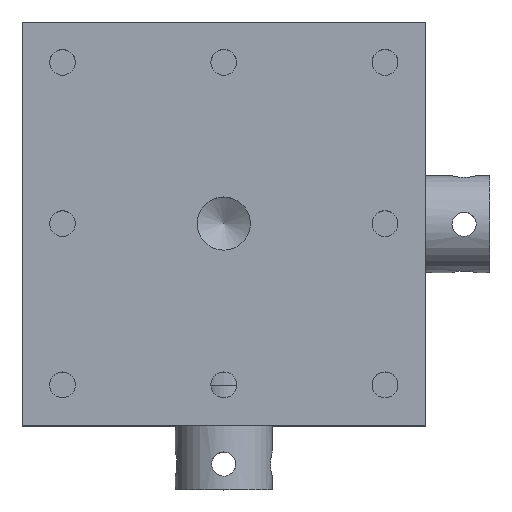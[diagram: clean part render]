
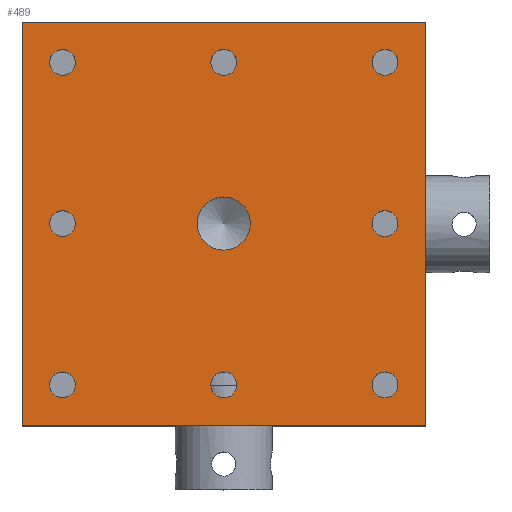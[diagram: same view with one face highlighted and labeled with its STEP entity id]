
A CAD part, top view. The second image highlights one B-rep face of the part: STEP entity #489.
In plain terms, the highlighted planar face has unit normal (0, 0, 1).
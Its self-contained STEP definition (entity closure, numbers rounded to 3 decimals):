
#489 = ADVANCED_FACE( '', ( #960, #961, #962, #963, #964, #965, #966, #967, #968, #969 ), #970, .T. );
#960 = FACE_BOUND( '', #1511, .T. );
#961 = FACE_BOUND( '', #1512, .T. );
#962 = FACE_BOUND( '', #1513, .T. );
#963 = FACE_BOUND( '', #1514, .T. );
#964 = FACE_BOUND( '', #1515, .T. );
#965 = FACE_BOUND( '', #1516, .T. );
#966 = FACE_BOUND( '', #1517, .T. );
#967 = FACE_BOUND( '', #1518, .T. );
#968 = FACE_BOUND( '', #1519, .T. );
#969 = FACE_OUTER_BOUND( '', #1520, .T. );
#970 = PLANE( '', #1521 );
#1511 = EDGE_LOOP( '', ( #3030 ) );
#1512 = EDGE_LOOP( '', ( #3031 ) );
#1513 = EDGE_LOOP( '', ( #3032 ) );
#1514 = EDGE_LOOP( '', ( #3033 ) );
#1515 = EDGE_LOOP( '', ( #3034 ) );
#1516 = EDGE_LOOP( '', ( #3035 ) );
#1517 = EDGE_LOOP( '', ( #3036 ) );
#1518 = EDGE_LOOP( '', ( #3037 ) );
#1519 = EDGE_LOOP( '', ( #3038 ) );
#1520 = EDGE_LOOP( '', ( #3039, #3040, #3041, #3042 ) );
#1521 = AXIS2_PLACEMENT_3D( '', #3043, #3044, #3045 );
#3030 = ORIENTED_EDGE( '', *, *, #3760, .T. );
#3031 = ORIENTED_EDGE( '', *, *, #3761, .T. );
#3032 = ORIENTED_EDGE( '', *, *, #3762, .T. );
#3033 = ORIENTED_EDGE( '', *, *, #3763, .T. );
#3034 = ORIENTED_EDGE( '', *, *, #3764, .T. );
#3035 = ORIENTED_EDGE( '', *, *, #3765, .T. );
#3036 = ORIENTED_EDGE( '', *, *, #3747, .T. );
#3037 = ORIENTED_EDGE( '', *, *, #3744, .T. );
#3038 = ORIENTED_EDGE( '', *, *, #3746, .T. );
#3039 = ORIENTED_EDGE( '', *, *, #3759, .F. );
#3040 = ORIENTED_EDGE( '', *, *, #3727, .F. );
#3041 = ORIENTED_EDGE( '', *, *, #3757, .F. );
#3042 = ORIENTED_EDGE( '', *, *, #3766, .F. );
#3043 = CARTESIAN_POINT( '', ( 0., 0., 30. ) );
#3044 = DIRECTION( '', ( 0., 0., 1. ) );
#3045 = DIRECTION( '', ( 0., 1., 0. ) );
#3727 = EDGE_CURVE( '', #4539, #4541, #4542, .T. );
#3744 = EDGE_CURVE( '', #4570, #4570, #4571, .T. );
#3746 = EDGE_CURVE( '', #4574, #4574, #4575, .T. );
#3747 = EDGE_CURVE( '', #4576, #4576, #4577, .T. );
#3757 = EDGE_CURVE( '', #4591, #4539, #4593, .T. );
#3759 = EDGE_CURVE( '', #4541, #4594, #4596, .T. );
#3760 = EDGE_CURVE( '', #4597, #4597, #4598, .T. );
#3761 = EDGE_CURVE( '', #4599, #4599, #4600, .T. );
#3762 = EDGE_CURVE( '', #4601, #4601, #4602, .T. );
#3763 = EDGE_CURVE( '', #4603, #4603, #4604, .T. );
#3764 = EDGE_CURVE( '', #4605, #4605, #4606, .T. );
#3765 = EDGE_CURVE( '', #4607, #4607, #4608, .T. );
#3766 = EDGE_CURVE( '', #4594, #4591, #4609, .T. );
#4539 = VERTEX_POINT( '', #5871 );
#4541 = VERTEX_POINT( '', #5874 );
#4542 = LINE( '', #5875, #5876 );
#4570 = VERTEX_POINT( '', #5911 );
#4571 = CIRCLE( '', #5912, 0.8 );
#4574 = VERTEX_POINT( '', #5915 );
#4575 = CIRCLE( '', #5916, 1.65 );
#4576 = VERTEX_POINT( '', #5917 );
#4577 = CIRCLE( '', #5918, 0.8 );
#4591 = VERTEX_POINT( '', #5939 );
#4593 = LINE( '', #5942, #5943 );
#4594 = VERTEX_POINT( '', #5944 );
#4596 = LINE( '', #5947, #5948 );
#4597 = VERTEX_POINT( '', #5949 );
#4598 = CIRCLE( '', #5950, 0.8 );
#4599 = VERTEX_POINT( '', #5951 );
#4600 = CIRCLE( '', #5952, 0.8 );
#4601 = VERTEX_POINT( '', #5953 );
#4602 = CIRCLE( '', #5954, 0.8 );
#4603 = VERTEX_POINT( '', #5955 );
#4604 = CIRCLE( '', #5956, 0.8 );
#4605 = VERTEX_POINT( '', #5957 );
#4606 = CIRCLE( '', #5958, 0.8 );
#4607 = VERTEX_POINT( '', #5959 );
#4608 = CIRCLE( '', #5960, 0.8 );
#4609 = LINE( '', #5961, #5962 );
#5871 = CARTESIAN_POINT( '', ( -12.5, 12.5, 30. ) );
#5874 = CARTESIAN_POINT( '', ( 12.5, 12.5, 30. ) );
#5875 = CARTESIAN_POINT( '', ( 0., 12.5, 30. ) );
#5876 = VECTOR( '', #6873, 1000. );
#5911 = CARTESIAN_POINT( '', ( -10., -10.8, 30. ) );
#5912 = AXIS2_PLACEMENT_3D( '', #6905, #6906, #6907 );
#5915 = CARTESIAN_POINT( '', ( 1.65, 0., 30. ) );
#5916 = AXIS2_PLACEMENT_3D( '', #6911, #6912, #6913 );
#5917 = CARTESIAN_POINT( '', ( -10., -0.8, 30. ) );
#5918 = AXIS2_PLACEMENT_3D( '', #6914, #6915, #6916 );
#5939 = CARTESIAN_POINT( '', ( -12.5, -12.5, 30. ) );
#5942 = CARTESIAN_POINT( '', ( -12.5, 0., 30. ) );
#5943 = VECTOR( '', #6928, 1000. );
#5944 = CARTESIAN_POINT( '', ( 12.5, -12.5, 30. ) );
#5947 = CARTESIAN_POINT( '', ( 12.5, 0., 30. ) );
#5948 = VECTOR( '', #6930, 1000. );
#5949 = CARTESIAN_POINT( '', ( 0., -10.8, 30. ) );
#5950 = AXIS2_PLACEMENT_3D( '', #6931, #6932, #6933 );
#5951 = CARTESIAN_POINT( '', ( 10., -10.8, 30. ) );
#5952 = AXIS2_PLACEMENT_3D( '', #6934, #6935, #6936 );
#5953 = CARTESIAN_POINT( '', ( 10., -0.8, 30. ) );
#5954 = AXIS2_PLACEMENT_3D( '', #6937, #6938, #6939 );
#5955 = CARTESIAN_POINT( '', ( 10., 9.2, 30. ) );
#5956 = AXIS2_PLACEMENT_3D( '', #6940, #6941, #6942 );
#5957 = CARTESIAN_POINT( '', ( 0., 9.2, 30. ) );
#5958 = AXIS2_PLACEMENT_3D( '', #6943, #6944, #6945 );
#5959 = CARTESIAN_POINT( '', ( -10., 9.2, 30. ) );
#5960 = AXIS2_PLACEMENT_3D( '', #6946, #6947, #6948 );
#5961 = CARTESIAN_POINT( '', ( 0., -12.5, 30. ) );
#5962 = VECTOR( '', #6949, 1000. );
#6873 = DIRECTION( '', ( 1., 0., 0. ) );
#6905 = CARTESIAN_POINT( '', ( -10., -10., 30. ) );
#6906 = DIRECTION( '', ( 0., 0., -1. ) );
#6907 = DIRECTION( '', ( 0., -1., 0. ) );
#6911 = CARTESIAN_POINT( '', ( 0., 0., 30. ) );
#6912 = DIRECTION( '', ( 0., 0., -1. ) );
#6913 = DIRECTION( '', ( 1., 0., 0. ) );
#6914 = CARTESIAN_POINT( '', ( -10., 0., 30. ) );
#6915 = DIRECTION( '', ( 0., 0., -1. ) );
#6916 = DIRECTION( '', ( 0., -1., 0. ) );
#6928 = DIRECTION( '', ( 0., 1., 0. ) );
#6930 = DIRECTION( '', ( 0., -1., 0. ) );
#6931 = CARTESIAN_POINT( '', ( 0., -10., 30. ) );
#6932 = DIRECTION( '', ( 0., 0., -1. ) );
#6933 = DIRECTION( '', ( 0., -1., 0. ) );
#6934 = CARTESIAN_POINT( '', ( 10., -10., 30. ) );
#6935 = DIRECTION( '', ( 0., 0., -1. ) );
#6936 = DIRECTION( '', ( 0., -1., 0. ) );
#6937 = CARTESIAN_POINT( '', ( 10., 0., 30. ) );
#6938 = DIRECTION( '', ( 0., 0., -1. ) );
#6939 = DIRECTION( '', ( 0., -1., 0. ) );
#6940 = CARTESIAN_POINT( '', ( 10., 10., 30. ) );
#6941 = DIRECTION( '', ( 0., 0., -1. ) );
#6942 = DIRECTION( '', ( 0., -1., 0. ) );
#6943 = CARTESIAN_POINT( '', ( 0., 10., 30. ) );
#6944 = DIRECTION( '', ( 0., 0., -1. ) );
#6945 = DIRECTION( '', ( 0., -1., 0. ) );
#6946 = CARTESIAN_POINT( '', ( -10., 10., 30. ) );
#6947 = DIRECTION( '', ( 0., 0., -1. ) );
#6948 = DIRECTION( '', ( 0., -1., 0. ) );
#6949 = DIRECTION( '', ( -1., 0., 0. ) );
